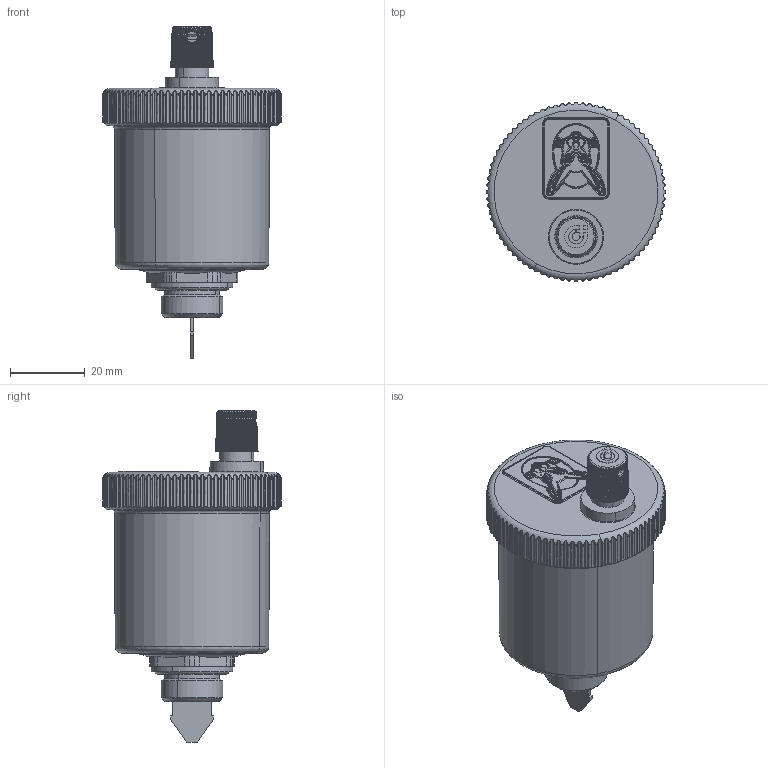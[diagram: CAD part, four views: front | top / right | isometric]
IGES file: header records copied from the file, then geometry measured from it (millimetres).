
Start section: START RECORD GO HERE.
Global section: file name: IGES_305300_-_TST.igs; native system: DASSAULT SYSTEMES CATIA Version 5-6 Release 2016 - www.3ds.com; preprocessor: V5-6R2016_5.26.4.0.01-18-2017.20.00; author: advantage; organization: CALEFFI; date: 20180829.112830; units: millimetre
Bounding box: 47.9 x 47.9 x 89 mm (x, y, z)
Surface area: 12362.8 mm2 (no closed solid volume)
Topology: 0 solids, 0 shells, 1151 faces, 6264 edges, 6250 vertices
Faces by surface type: revolution 496, plane 345, bspline 163, extrusion 147
